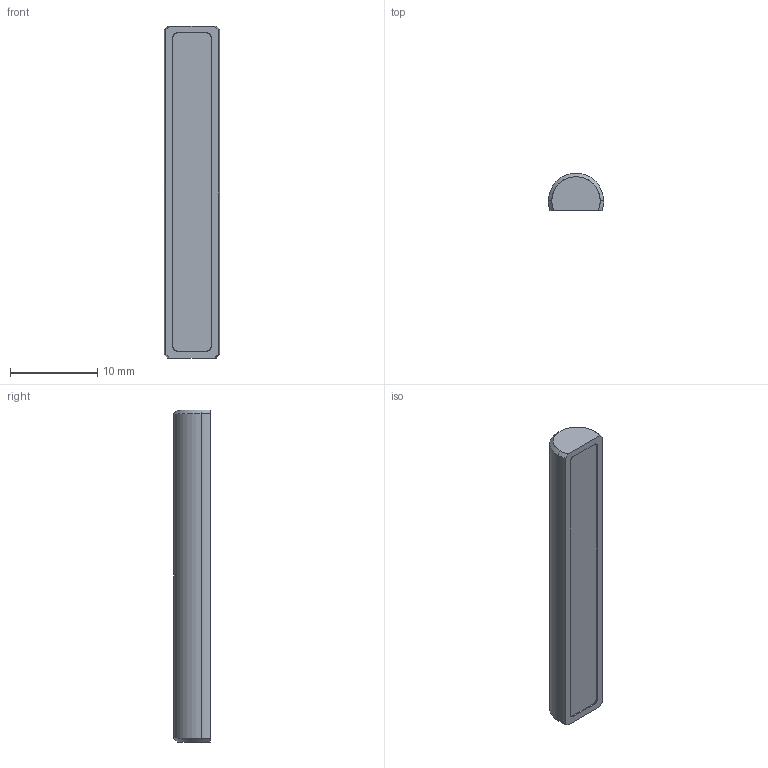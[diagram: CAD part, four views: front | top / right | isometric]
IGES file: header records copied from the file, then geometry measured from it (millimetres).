
Start section: SolidWorks IGES file using analytic representation for surfaces
Global section: file name: D:\Solid_parts\MECHeDESIGN\Bal-Tec\Catalog 105-A\Distribution\IGES\250-TCR.IGS; native system: SolidWorks 2005 by SolidWorks Corporation; preprocessor: SolidWorks 2005 by SolidWorks Corporation; author: rvillegas; date: 061205.183913; units: inch
Bounding box: 6.35 x 4.24 x 38.1 mm (x, y, z)
Surface area: 739.7 mm2 (no closed solid volume)
Topology: 0 solids, 0 shells, 21 faces, 158 edges, 158 vertices
Faces by surface type: revolution 13, bspline 8
